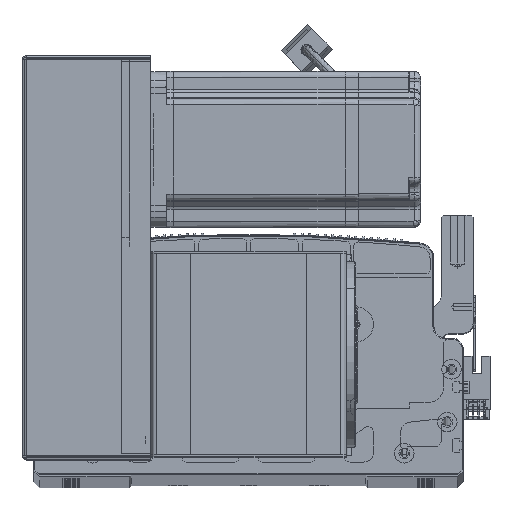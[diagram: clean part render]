
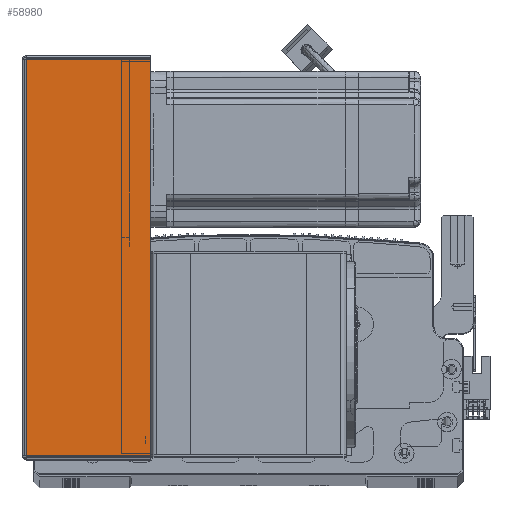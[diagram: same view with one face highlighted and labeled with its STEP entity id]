
A CAD part, top view. The second image highlights one B-rep face of the part: STEP entity #58980.
In plain terms, the highlighted planar face has unit normal (0, 0, 1) as drawn and (0, 1, 0) by its records, which use the part's own axes.
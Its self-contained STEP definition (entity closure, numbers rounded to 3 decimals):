
#1463 = ORIENTED_EDGE ( 'NONE', *, *, #18137, .F. ) ;
#2877 = ORIENTED_EDGE ( 'NONE', *, *, #80285, .T. ) ;
#3754 = DIRECTION ( 'NONE',  ( 0., 0., -1. ) ) ;
#3869 = VECTOR ( 'NONE', #82118, 1000. ) ;
#9042 = LINE ( 'NONE', #81832, #81819 ) ;
#13140 = DIRECTION ( 'NONE',  ( 1., 0., 0. ) ) ;
#14138 = PLANE ( 'NONE',  #82787 ) ;
#17411 = EDGE_LOOP ( 'NONE', ( #1463, #2877, #76781, #87272 ) ) ;
#18137 = EDGE_CURVE ( 'NONE', #78837, #22576, #9042, .T. ) ;
#20045 = CARTESIAN_POINT ( 'NONE',  ( 0., 107.5, -0.707 ) ) ;
#22576 = VERTEX_POINT ( 'NONE', #56606 ) ;
#24495 = LINE ( 'NONE', #20045, #3869 ) ;
#25067 = VERTEX_POINT ( 'NONE', #42796 ) ;
#29189 = LINE ( 'NONE', #91979, #54697 ) ;
#30427 = VERTEX_POINT ( 'NONE', #84095 ) ;
#35821 = CARTESIAN_POINT ( 'NONE',  ( 0., 107.5, 0. ) ) ;
#42796 = CARTESIAN_POINT ( 'NONE',  ( 64.5, 107.5, -0.707 ) ) ;
#43650 = DIRECTION ( 'NONE',  ( 0., -1., 0. ) ) ;
#46466 = CARTESIAN_POINT ( 'NONE',  ( 0.737, 107.5, -0.707 ) ) ;
#52153 = CARTESIAN_POINT ( 'NONE',  ( 0., 107.5, -203.293 ) ) ;
#52996 = EDGE_CURVE ( 'NONE', #25067, #30427, #29189, .T. ) ;
#54697 = VECTOR ( 'NONE', #68881, 1000. ) ;
#55042 = VECTOR ( 'NONE', #13140, 1000. ) ;
#56606 = CARTESIAN_POINT ( 'NONE',  ( 0.737, 107.5, -203.293 ) ) ;
#58980 = ADVANCED_FACE ( 'NONE', ( #93553 ), #14138, .F. ) ;
#68881 = DIRECTION ( 'NONE',  ( 0., 0., -1. ) ) ;
#75538 = DIRECTION ( 'NONE',  ( 1., 0., 0. ) ) ;
#75651 = LINE ( 'NONE', #52153, #55042 ) ;
#76781 = ORIENTED_EDGE ( 'NONE', *, *, #52996, .T. ) ;
#78837 = VERTEX_POINT ( 'NONE', #46466 ) ;
#80285 = EDGE_CURVE ( 'NONE', #78837, #25067, #24495, .T. ) ;
#81819 = VECTOR ( 'NONE', #3754, 1000. ) ;
#81832 = CARTESIAN_POINT ( 'NONE',  ( 0.737, 107.5, 0. ) ) ;
#82118 = DIRECTION ( 'NONE',  ( 1., 0., 0. ) ) ;
#82787 = AXIS2_PLACEMENT_3D ( 'NONE', #35821, #43650, #75538 ) ;
#83313 = EDGE_CURVE ( 'NONE', #22576, #30427, #75651, .T. ) ;
#84095 = CARTESIAN_POINT ( 'NONE',  ( 64.5, 107.5, -203.293 ) ) ;
#87272 = ORIENTED_EDGE ( 'NONE', *, *, #83313, .F. ) ;
#91979 = CARTESIAN_POINT ( 'NONE',  ( 64.5, 107.5, -204. ) ) ;
#93553 = FACE_OUTER_BOUND ( 'NONE', #17411, .T. ) ;
